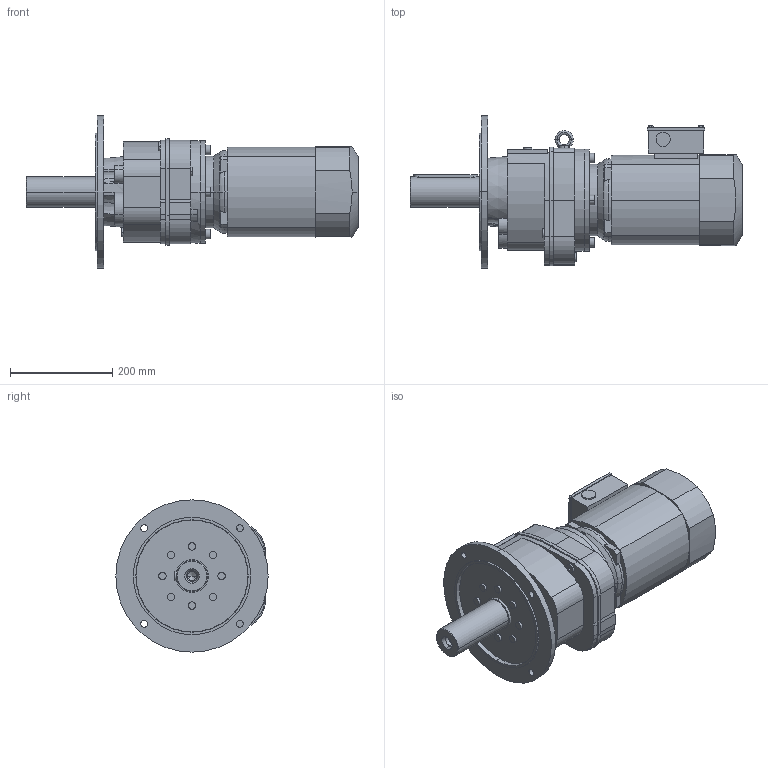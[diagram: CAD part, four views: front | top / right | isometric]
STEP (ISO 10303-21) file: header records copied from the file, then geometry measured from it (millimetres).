
FILE_DESCRIPTION(('STEP AP214'),'1');
FILE_NAME('STEP-File.stp','2018-01-01T00:00:00',(' '),('KEB'),' ','KEB-DRIVE',' ');
FILE_SCHEMA(('AUTOMOTIVE_DESIGN { 1 0 10303 214 1 1 1 1 }'));
Length unit declared in the file: millimetre
Products named in the file (9): g4b; w4_we_60x140; c4_300; cn4; dm100_kkn; kk08; PLUG_M25; ndm100; ZG43 DM90SD4§CAD13
Assembly tree (8 placements, depth 2):
  ZG43 DM90SD4§CAD13
    g4b
    w4_we_60x140
    c4_300
    cn4
    dm100_kkn
    kk08
    PLUG_M25
    ndm100
Bounding box: 650.5 x 298.43 x 298.43 mm (x, y, z)
Volume: 15884681.1 mm3; surface area: 831351.2 mm2
Topology: 8 solids, 8 shells, 504 faces, 1463 edges, 1150 vertices
Faces by surface type: plane 312, cylinder 121, cone 56, torus 11, bspline 4
Entity records: 21906 total; most frequent: CARTESIAN_POINT 8945, ORIENTED_EDGE 2922, DIRECTION 2032, EDGE_CURVE 1461, VERTEX_POINT 1150, VECTOR 1004, LINE 1004, EDGE_LOOP 691
